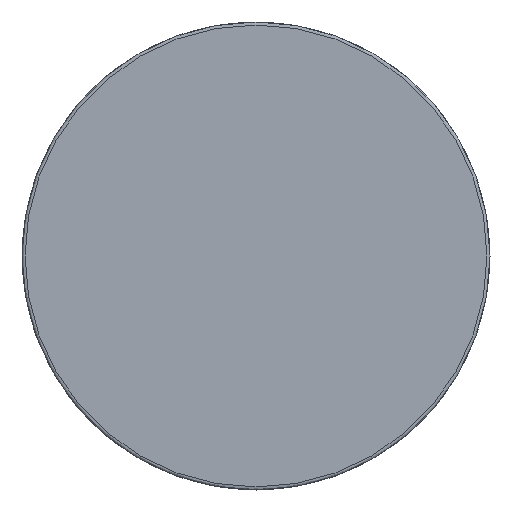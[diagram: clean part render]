
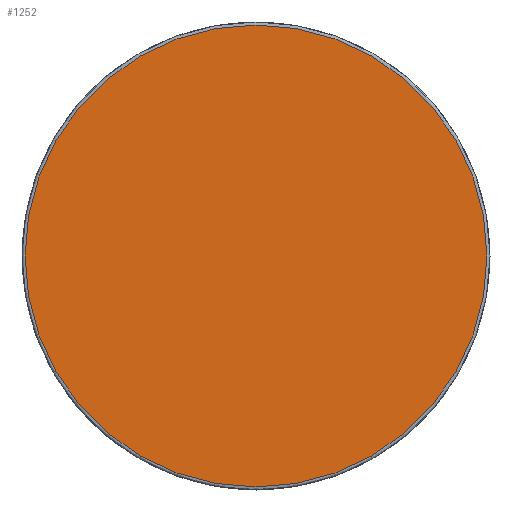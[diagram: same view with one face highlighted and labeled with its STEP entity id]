
A CAD part, left-side view. The second image highlights one B-rep face of the part: STEP entity #1252.
In plain terms, the highlighted planar face has unit normal (-1, 0, 0).
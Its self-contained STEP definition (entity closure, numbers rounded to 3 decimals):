
#1227=CARTESIAN_POINT('',(-389.034,-561.813,517.173));
#1228=DIRECTION('',(-1.0,0.0,0.0));
#1229=DIRECTION('',(0.0,1.0,0.0));
#1230=AXIS2_PLACEMENT_3D('',#1227,#1228,#1229);
#1231=PLANE('',#1230);
#1232=CARTESIAN_POINT('',(-389.034,-427.313,443.372));
#1233=VERTEX_POINT('',#1232);
#1234=CARTESIAN_POINT('',(-389.034,-548.713,443.372));
#1235=VERTEX_POINT('',#1234);
#1236=CARTESIAN_POINT('',(-389.034,-488.013,443.372));
#1237=DIRECTION('',(-1.0,0.0,0.0));
#1238=DIRECTION('',(0.0,1.0,0.0));
#1239=AXIS2_PLACEMENT_3D('',#1236,#1237,#1238);
#1240=CIRCLE('',#1239,60.7);
#1241=EDGE_CURVE('',#1233,#1235,#1240,.T.);
#1242=ORIENTED_EDGE('',*,*,#1241,.T.);
#1243=CARTESIAN_POINT('',(-389.034,-488.013,443.372));
#1244=DIRECTION('',(-1.0,0.0,0.0));
#1245=DIRECTION('',(0.0,1.0,0.0));
#1246=AXIS2_PLACEMENT_3D('',#1243,#1244,#1245);
#1247=CIRCLE('',#1246,60.7);
#1248=EDGE_CURVE('',#1235,#1233,#1247,.T.);
#1249=ORIENTED_EDGE('',*,*,#1248,.T.);
#1250=EDGE_LOOP('',(#1242,#1249));
#1251=FACE_OUTER_BOUND('',#1250,.T.);
#1252=ADVANCED_FACE('',(#1251),#1231,.T.);
